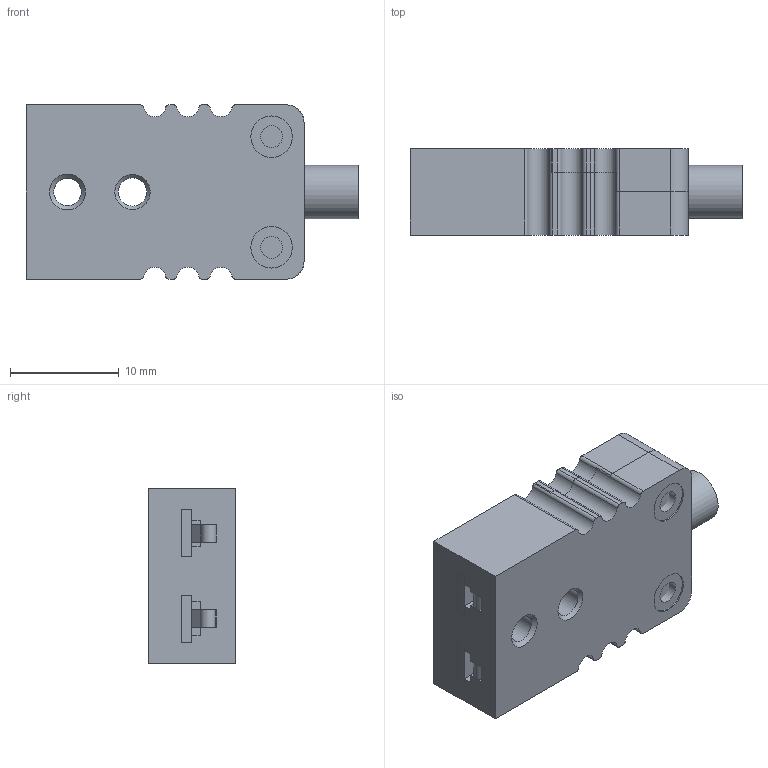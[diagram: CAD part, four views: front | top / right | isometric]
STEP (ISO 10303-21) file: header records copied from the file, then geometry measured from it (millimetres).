
FILE_DESCRIPTION(/* description */ (''),/* implementation_level */ '2;1');
FILE_NAME(/* name */ 'C:\Users\Justin\Documents\CAD\The Sensor Connection\Temperature Sensors\Thermocouple Accessories\Thermocouple Connectors\Mini-Jack Type K\CON-FJ-MINI-ECON Type K.iam.stp',/* time_stamp */ '2021-12-28T11:21:28-05:00',/* author */ ('J. Nielson'),/* organization */ (''),/* preprocessor_version */ 'ST-DEVELOPER v18.1',/* originating_system */ 'Autodesk Inventor 2022',/* authorisation */ '');
FILE_SCHEMA (('AUTOMOTIVE_DESIGN { 1 0 10303 214 3 1 1 }'));
Length unit declared in the file: inch
Products named in the file (10): CON-FJ-MINI-ECON; Type K-MP-F; Type K-MP--Cover; Screw GB 946 M2.5 x 1 Shoulder; FJ- Positive Pin; FJ- Negative Pin; Spring Contact; FJ- Spring Contact; Grommet; Screw GB 946 M2.5 x 1
Assembly tree (12 placements, depth 2):
  CON-FJ-MINI-ECON
    Type K-MP-F
    Type K-MP--Cover
    Screw GB 946 M2.5 x 1 Shoulder  x2
    FJ- Positive Pin
    FJ- Negative Pin
    Spring Contact
    FJ- Spring Contact  x2
    Grommet
    Screw GB 946 M2.5 x 1  x2
Bounding box: 30.48 x 7.94 x 16 mm (x, y, z)
Volume: 2855.4 mm3; surface area: 4377.8 mm2
Topology: 15 solids, 15 shells, 323 faces, 821 edges, 546 vertices
Faces by surface type: plane 202, cylinder 96, sphere 16, cone 5, torus 4
Full cylindrical faces by diameter (mm): 1.27 x1, 1.524 x1, 2.013 x6, 2.15 x2, 2.261 x2, 2.43 x4, 2.54 x3, 2.603 x1, 2.667 x1, 3.175 x2, 3.746 x4, 3.81 x4, 4.3 x2, 4.699 x2, 4.889 x1, 5 x2, 5.08 x2, 6.35 x1
Entity records: 8822 total; most frequent: DIRECTION 1529, CARTESIAN_POINT 1457, ORIENTED_EDGE 1396, EDGE_CURVE 698, AXIS2_PLACEMENT_3D 536, VERTEX_POINT 464, LINE 457, VECTOR 457
